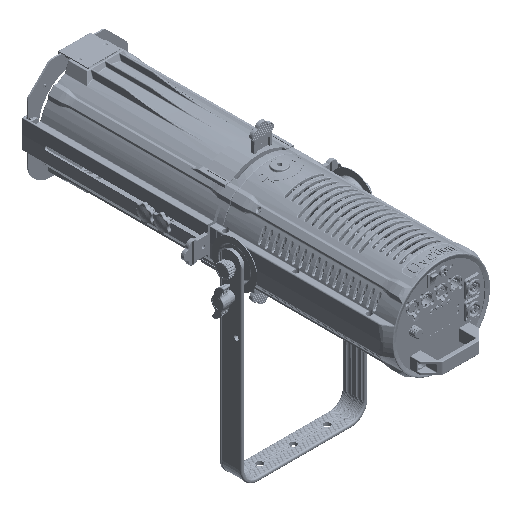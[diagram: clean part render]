
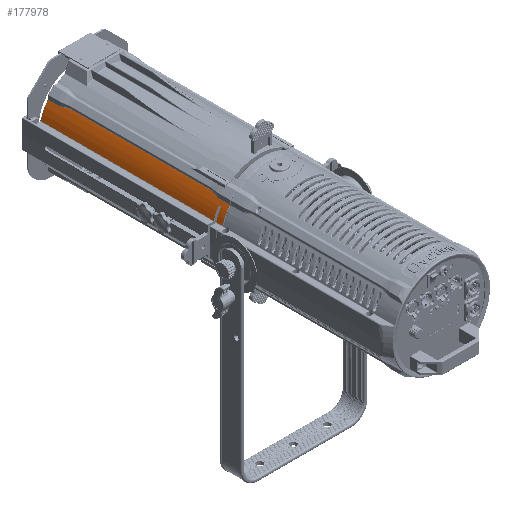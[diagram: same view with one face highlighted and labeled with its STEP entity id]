
A CAD part, isometric view. The second image highlights one B-rep face of the part: STEP entity #177978.
In plain terms, the highlighted cylindrical face has radius 86 mm (diameter 172 mm), a partial arc.
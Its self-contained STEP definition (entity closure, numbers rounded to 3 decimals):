
#131153=CARTESIAN_POINT('',(0.,-150.633,0.));
#131154=DIRECTION('',(0.,1.,0.));
#131155=DIRECTION('',(-0.954,0.,0.299));
#131156=AXIS2_PLACEMENT_3D('',#131153,#131154,#131155);
#131161=CARTESIAN_POINT('',(-82.07,-150.633,
25.701));
#136778=DIRECTION('',(0.,-1.,0.));
#136779=VECTOR('',#136778,11.104);
#136780=CARTESIAN_POINT('',(-82.07,-150.633,
25.701));
#136781=LINE('',#136780,#136779);
#136799=DIRECTION('',(0.,-1.,0.));
#136800=VECTOR('',#136799,307.271);
#136801=CARTESIAN_POINT('',(-82.07,160.905,
25.701));
#136802=LINE('',#136801,#136800);
#136813=DIRECTION('',(0.,1.,0.));
#136814=VECTOR('',#136813,3.276);
#136815=CARTESIAN_POINT('',(-73.287,-150.138,45.));
#136816=LINE('',#136815,#136814);
#136820=CARTESIAN_POINT('',(0.,160.905,0.));
#136821=DIRECTION('',(0.,1.,0.));
#136822=DIRECTION('',(-0.954,0.,0.299));
#136823=AXIS2_PLACEMENT_3D('',#136820,#136821,#136822);
#136828=DIRECTION('',(0.,-1.,0.));
#136829=VECTOR('',#136828,17.905);
#136830=CARTESIAN_POINT('',(-68.981,160.905,
51.358));
#136831=LINE('',#136830,#136829);
#136835=CARTESIAN_POINT('',(-68.981,143.,51.358));
#136836=CARTESIAN_POINT('',(-68.981,142.354,
51.358));
#136837=CARTESIAN_POINT('',(-68.934,141.019,
51.421));
#136838=CARTESIAN_POINT('',(-68.705,138.807,
51.727));
#136839=CARTESIAN_POINT('',(-68.362,136.615,
52.181));
#136840=CARTESIAN_POINT('',(-67.963,134.493,
52.699));
#136841=CARTESIAN_POINT('',(-67.574,132.554,
53.196));
#136842=CARTESIAN_POINT('',(-67.149,130.386,
53.732));
#136843=CARTESIAN_POINT('',(-66.738,128.013,
54.242));
#136844=CARTESIAN_POINT('',(-66.422,125.438,
54.627));
#136845=CARTESIAN_POINT('',(-66.347,123.81,
54.718));
#136846=CARTESIAN_POINT('',(-66.347,123.,54.718));
#136851=CARTESIAN_POINT('',(-66.347,-123.,54.718));
#136852=CARTESIAN_POINT('',(-66.347,-123.787,
54.718));
#136853=CARTESIAN_POINT('',(-66.418,-125.392,
54.632));
#136854=CARTESIAN_POINT('',(-66.737,-128.018,
54.243));
#136855=CARTESIAN_POINT('',(-67.166,-130.477,
53.712));
#136856=CARTESIAN_POINT('',(-67.597,-132.666,
53.168));
#136857=CARTESIAN_POINT('',(-67.975,-134.556,
52.684));
#136858=CARTESIAN_POINT('',(-68.371,-136.671,
52.168));
#136859=CARTESIAN_POINT('',(-68.712,-138.858,
51.718));
#136860=CARTESIAN_POINT('',(-68.936,-141.06,
51.418));
#136861=CARTESIAN_POINT('',(-68.981,-142.37,
51.358));
#136862=CARTESIAN_POINT('',(-68.981,-143.,51.358));
#136867=CARTESIAN_POINT('',(0.,-161.737,0.));
#136868=DIRECTION('',(0.,1.,0.));
#136869=DIRECTION('',(-0.954,0.,0.299));
#136870=AXIS2_PLACEMENT_3D('',#136867,#136868,#136869);
#137527=CARTESIAN_POINT('',(-73.287,-150.138,45.));
#137528=CARTESIAN_POINT('',(-73.287,-150.226,
45.));
#137529=CARTESIAN_POINT('',(-73.311,-150.38,
44.961));
#137530=CARTESIAN_POINT('',(-73.424,-150.58,
44.776));
#137531=CARTESIAN_POINT('',(-73.528,-150.633,
44.605));
#137532=CARTESIAN_POINT('',(-73.589,-150.633,
44.505));
#137566=CARTESIAN_POINT('',(-73.589,-146.366,
44.505));
#137567=CARTESIAN_POINT('',(-73.529,-146.366,
44.605));
#137568=CARTESIAN_POINT('',(-73.425,-146.419,
44.774));
#137569=CARTESIAN_POINT('',(-73.311,-146.618,
44.961));
#137570=CARTESIAN_POINT('',(-73.287,-146.774,
45.));
#137571=CARTESIAN_POINT('',(-73.287,-146.862,45.));
#137720=CARTESIAN_POINT('',(0.,-146.366,0.));
#137721=DIRECTION('',(0.,1.,0.));
#137722=DIRECTION('',(-0.954,0.,0.299));
#137723=AXIS2_PLACEMENT_3D('',#137720,#137721,#137722);
#152542=CARTESIAN_POINT('',(-68.981,-161.737,
51.358));
#152551=DIRECTION('',(0.,1.,0.));
#152552=VECTOR('',#152551,18.737);
#152553=CARTESIAN_POINT('',(-68.981,-161.737,
51.358));
#152554=LINE('',#152553,#152552);
#152581=DIRECTION('',(0.,1.,0.));
#152582=VECTOR('',#152581,246.);
#152583=CARTESIAN_POINT('',(-66.347,-123.,54.718));
#152584=LINE('',#152583,#152582);
#169860=VERTEX_POINT('',#136851);
#169861=VERTEX_POINT('',#136862);
#170237=VERTEX_POINT('',#152542);
#170239=CARTESIAN_POINT('',(-82.07,-161.737,
25.701));
#170240=VERTEX_POINT('',#170239);
#171542=CARTESIAN_POINT('',(-82.07,160.905,
25.701));
#171543=CARTESIAN_POINT('',(-68.981,160.905,
51.358));
#171544=VERTEX_POINT('',#171542);
#171545=VERTEX_POINT('',#171543);
#171564=CARTESIAN_POINT('',(-82.07,-146.366,
25.701));
#171565=VERTEX_POINT('',#171564);
#172084=VERTEX_POINT('',#137527);
#172085=VERTEX_POINT('',#137532);
#172088=VERTEX_POINT('',#137566);
#172089=VERTEX_POINT('',#137571);
#173777=VERTEX_POINT('',#136835);
#173778=VERTEX_POINT('',#136846);
#174215=VERTEX_POINT('',#131161);
#177946=CARTESIAN_POINT('',(0.,-163.,0.));
#177947=DIRECTION('',(0.,1.,0.));
#177948=DIRECTION('',(1.,0.,0.));
#177949=AXIS2_PLACEMENT_3D('',#177946,#177947,#177948);
#177950=CYLINDRICAL_SURFACE('',#177949,86.);
#177951=ORIENTED_EDGE('',*,*,#174851,.T.);
#177953=ORIENTED_EDGE('',*,*,#177952,.F.);
#177955=ORIENTED_EDGE('',*,*,#177954,.T.);
#177957=ORIENTED_EDGE('',*,*,#177956,.F.);
#177959=ORIENTED_EDGE('',*,*,#177958,.F.);
#177960=ORIENTED_EDGE('',*,*,#177938,.F.);
#177962=ORIENTED_EDGE('',*,*,#177961,.T.);
#177964=ORIENTED_EDGE('',*,*,#177963,.T.);
#177966=ORIENTED_EDGE('',*,*,#177965,.T.);
#177968=ORIENTED_EDGE('',*,*,#177967,.F.);
#177970=ORIENTED_EDGE('',*,*,#177969,.T.);
#177972=ORIENTED_EDGE('',*,*,#177971,.F.);
#177974=ORIENTED_EDGE('',*,*,#177973,.F.);
#177975=ORIENTED_EDGE('',*,*,#177926,.F.);
#177976=EDGE_LOOP('',(#177951,#177953,#177955,#177957,#177959,#177960,#177962,
#177964,#177966,#177968,#177970,#177972,#177974,#177975));
#177977=FACE_OUTER_BOUND('',#177976,.F.);
#131157=CIRCLE('',#131156,86.);
#136824=CIRCLE('',#136823,86.);
#136847=B_SPLINE_CURVE_WITH_KNOTS('',3,(#136835,#136836,#136837,#136838,#136839,
#136840,#136841,#136842,#136843,#136844,#136845,#136846),.UNSPECIFIED.,.F.,.F.,(
4,1,1,1,1,1,1,1,1,4),(0.,0.111,0.222,
0.333,0.444,0.556,0.667,
0.778,0.889,1.),.UNSPECIFIED.);
#136863=B_SPLINE_CURVE_WITH_KNOTS('',3,(#136851,#136852,#136853,#136854,#136855,
#136856,#136857,#136858,#136859,#136860,#136861,#136862),.UNSPECIFIED.,.F.,.F.,(
4,1,1,1,1,1,1,1,1,4),(0.,0.111,0.222,
0.333,0.444,0.556,0.667,
0.778,0.889,1.),.UNSPECIFIED.);
#136871=CIRCLE('',#136870,86.);
#137533=B_SPLINE_CURVE_WITH_KNOTS('',3,(#137527,#137528,#137529,#137530,#137531,
#137532),.UNSPECIFIED.,.F.,.F.,(4,1,1,4),(0.,0.333,
0.667,1.),.UNSPECIFIED.);
#137572=B_SPLINE_CURVE_WITH_KNOTS('',3,(#137566,#137567,#137568,#137569,#137570,
#137571),.UNSPECIFIED.,.F.,.F.,(4,1,1,4),(0.,0.333,
0.667,1.),.UNSPECIFIED.);
#137724=CIRCLE('',#137723,86.);
#174851=EDGE_CURVE('',#174215,#172085,#131157,.T.);
#177926=EDGE_CURVE('',#174215,#170240,#136781,.T.);
#177938=EDGE_CURVE('',#171544,#171565,#136802,.T.);
#177952=EDGE_CURVE('',#172084,#172085,#137533,.T.);
#177954=EDGE_CURVE('',#172084,#172089,#136816,.T.);
#177956=EDGE_CURVE('',#172088,#172089,#137572,.T.);
#177958=EDGE_CURVE('',#171565,#172088,#137724,.T.);
#177961=EDGE_CURVE('',#171544,#171545,#136824,.T.);
#177963=EDGE_CURVE('',#171545,#173777,#136831,.T.);
#177965=EDGE_CURVE('',#173777,#173778,#136847,.T.);
#177967=EDGE_CURVE('',#169860,#173778,#152584,.T.);
#177969=EDGE_CURVE('',#169860,#169861,#136863,.T.);
#177971=EDGE_CURVE('',#170237,#169861,#152554,.T.);
#177973=EDGE_CURVE('',#170240,#170237,#136871,.T.);
#177978=ADVANCED_FACE('',(#177977),#177950,.T.);
